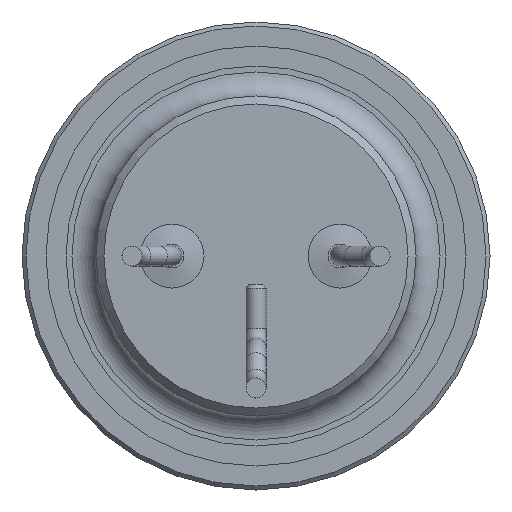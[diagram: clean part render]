
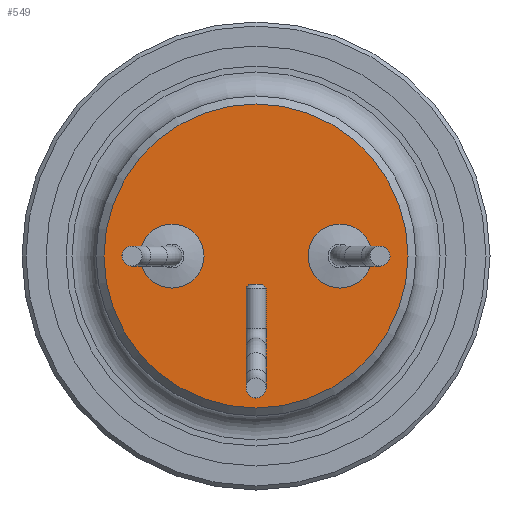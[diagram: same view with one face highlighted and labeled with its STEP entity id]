
A CAD part, front view. The second image highlights one B-rep face of the part: STEP entity #549.
In plain terms, the highlighted planar face has unit normal (0, -1, 0).
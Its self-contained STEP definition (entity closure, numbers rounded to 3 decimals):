
#65 = CARTESIAN_POINT ( 'NONE',  ( -1.3, 0., 0. ) ) ;
#77 = DIRECTION ( 'NONE',  ( 1., 0., 0. ) ) ;
#80 = CIRCLE ( 'NONE', #769, 0.8 ) ;
#151 = AXIS2_PLACEMENT_3D ( 'NONE', #980, #819, #285 ) ;
#158 = CARTESIAN_POINT ( 'NONE',  ( -3.8, 0., 0. ) ) ;
#186 = EDGE_LOOP ( 'NONE', ( #803 ) ) ;
#199 = EDGE_CURVE ( 'NONE', #960, #960, #297, .T. ) ;
#200 = FACE_BOUND ( 'NONE', #186, .T. ) ;
#211 = EDGE_CURVE ( 'NONE', #733, #733, #80, .T. ) ;
#217 = ORIENTED_EDGE ( 'NONE', *, *, #227, .T. ) ;
#227 = EDGE_CURVE ( 'NONE', #251, #251, #519, .T. ) ;
#251 = VERTEX_POINT ( 'NONE', #158 ) ;
#285 = DIRECTION ( 'NONE',  ( -1., 0., 0. ) ) ;
#297 = CIRCLE ( 'NONE', #756, 0.8 ) ;
#346 = CARTESIAN_POINT ( 'NONE',  ( 2.1, 0., 0. ) ) ;
#367 = EDGE_LOOP ( 'NONE', ( #993 ) ) ;
#440 = DIRECTION ( 'NONE',  ( 1., 0., 0. ) ) ;
#445 = CARTESIAN_POINT ( 'NONE',  ( 0., 0., 0. ) ) ;
#519 = CIRCLE ( 'NONE', #717, 3.8 ) ;
#549 = ADVANCED_FACE ( 'NONE', ( #200, #884, #710 ), #715, .F. ) ;
#551 = DIRECTION ( 'NONE',  ( -1., 0., 0. ) ) ;
#621 = CARTESIAN_POINT ( 'NONE',  ( 2.9, 0., 0. ) ) ;
#635 = DIRECTION ( 'NONE',  ( 0., -1., 0. ) ) ;
#637 = EDGE_LOOP ( 'NONE', ( #217 ) ) ;
#710 = FACE_OUTER_BOUND ( 'NONE', #637, .T. ) ;
#715 = PLANE ( 'NONE',  #151 ) ;
#717 = AXIS2_PLACEMENT_3D ( 'NONE', #445, #1072, #551 ) ;
#733 = VERTEX_POINT ( 'NONE', #65 ) ;
#756 = AXIS2_PLACEMENT_3D ( 'NONE', #346, #970, #440 ) ;
#769 = AXIS2_PLACEMENT_3D ( 'NONE', #1171, #635, #77 ) ;
#803 = ORIENTED_EDGE ( 'NONE', *, *, #199, .F. ) ;
#819 = DIRECTION ( 'NONE',  ( 0., 1., 0. ) ) ;
#884 = FACE_BOUND ( 'NONE', #367, .T. ) ;
#960 = VERTEX_POINT ( 'NONE', #621 ) ;
#970 = DIRECTION ( 'NONE',  ( 0., -1., 0. ) ) ;
#980 = CARTESIAN_POINT ( 'NONE',  ( 4., 0., 0. ) ) ;
#993 = ORIENTED_EDGE ( 'NONE', *, *, #211, .F. ) ;
#1072 = DIRECTION ( 'NONE',  ( 0., -1., 0. ) ) ;
#1171 = CARTESIAN_POINT ( 'NONE',  ( -2.1, 0., 0. ) ) ;
